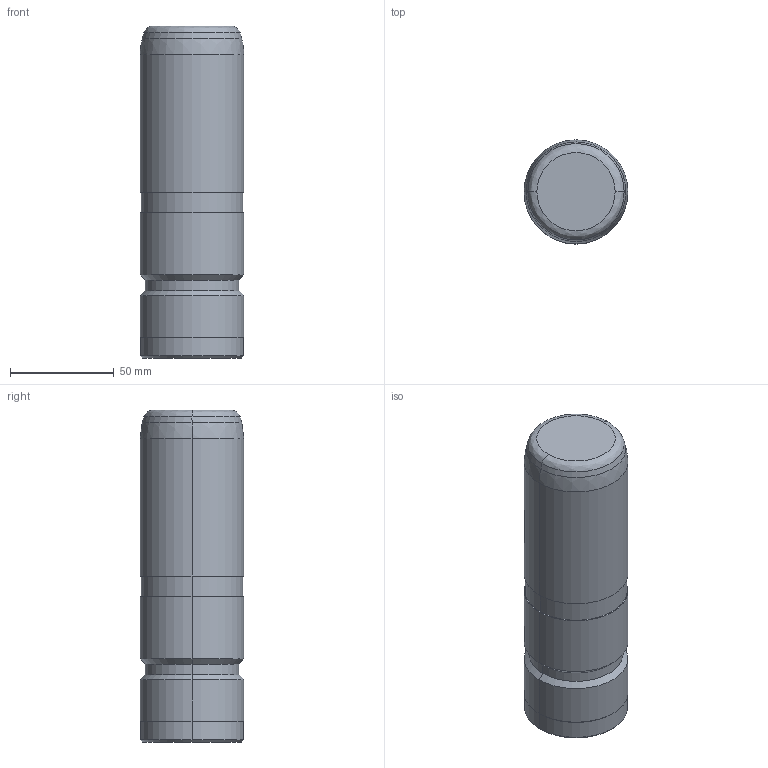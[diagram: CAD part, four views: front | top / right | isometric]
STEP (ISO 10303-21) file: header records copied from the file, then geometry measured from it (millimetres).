
FILE_DESCRIPTION((''),'2;1');
FILE_NAME('','2010-08-29T23:15:15+09:00',('misumi'),(''),'M/STEP i/f 1R2-14','CADmeister v5.1','');
FILE_SCHEMA(('AUTOMOTIVE_DESIGN'));
Length unit declared in the file: millimetre
Products named in the file (1): GPM50-160
Bounding box: 50 x 50 x 160 mm (x, y, z)
Volume: 307652.6 mm3; surface area: 28677.5 mm2
Topology: 1 solids, 1 shells, 29 faces, 56 edges, 32 vertices
Faces by surface type: cylinder 12, cone 8, plane 5, revolution 4
Entity records: 840 total; most frequent: DIRECTION 152, CARTESIAN_POINT 128, ORIENTED_EDGE 112, AXIS2_PLACEMENT_3D 64, EDGE_CURVE 56, CIRCLE 38, VERTEX_POINT 32, EDGE_LOOP 32
